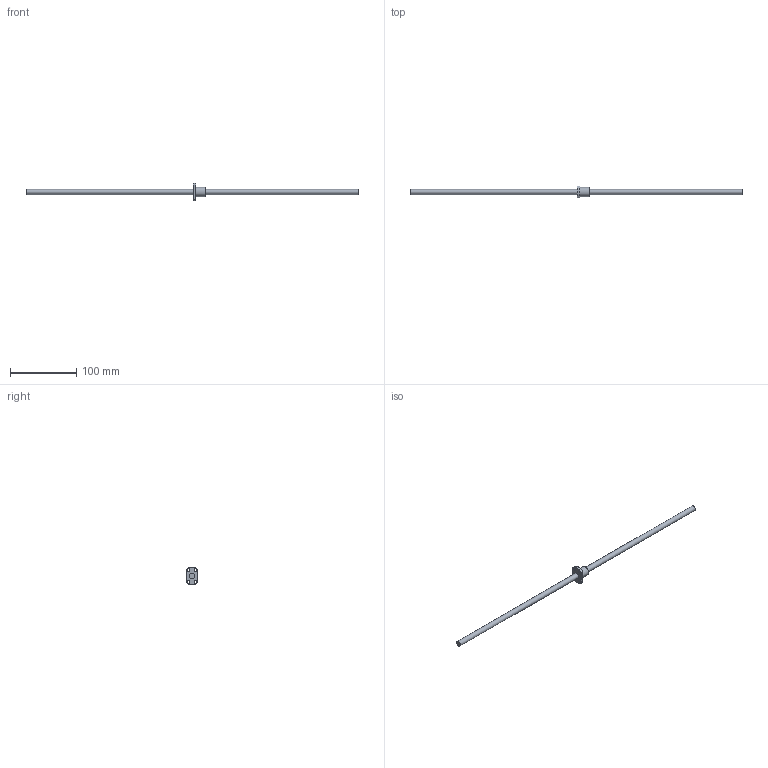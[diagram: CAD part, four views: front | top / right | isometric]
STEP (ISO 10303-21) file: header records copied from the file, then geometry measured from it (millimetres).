
FILE_DESCRIPTION (( 'STEP AP203' ), '1' );
FILE_NAME ('SFK00802.step', '2024-05-30T08:10:48', ( '' ), ( '' ), 'SwSTEP 2.0', 'SolidWorks 2022', '' );
FILE_SCHEMA (( 'CONFIG_CONTROL_DESIGN' ));
Length unit declared in the file: millimetre
Products named in the file (1): SFK00802
Bounding box: 500 x 18 x 26.92 mm (x, y, z)
Volume: 27837.5 mm3; surface area: 14907.1 mm2
Topology: 2 solids, 2 shells, 33 faces, 87 edges, 59 vertices
Faces by surface type: plane 11, cylinder 9, cone 8, torus 5
Full cylindrical faces by diameter (mm): 3.4 x4, 8 x1, 8.7 x1, 14 x1
Entity records: 999 total; most frequent: CARTESIAN_POINT 236, DIRECTION 142, ORIENTED_EDGE 118, AXIS2_PLACEMENT_3D 65, EDGE_LOOP 60, EDGE_CURVE 59, VERTEX_POINT 47, FACE_OUTER_BOUND 41
